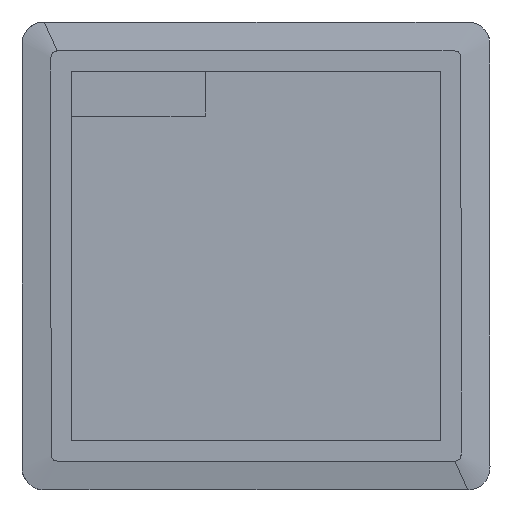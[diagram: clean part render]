
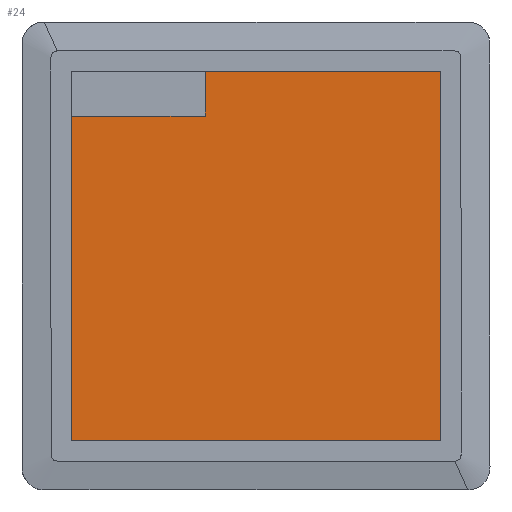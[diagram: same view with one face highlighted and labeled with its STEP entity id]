
A CAD part, front view. The second image highlights one B-rep face of the part: STEP entity #24.
In plain terms, the highlighted planar face has unit normal (0, -1, 0).
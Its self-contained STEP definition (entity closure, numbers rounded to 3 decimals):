
#24=ADVANCED_FACE('',(#70),#712,.T.);
#70=FACE_OUTER_BOUND('',#117,.T.);
#117=EDGE_LOOP('',(#187,#188,#189,#190,#191,#192));
#187=ORIENTED_EDGE('',*,*,#408,.F.);
#188=ORIENTED_EDGE('',*,*,#411,.F.);
#189=ORIENTED_EDGE('',*,*,#404,.T.);
#190=ORIENTED_EDGE('',*,*,#413,.F.);
#191=ORIENTED_EDGE('',*,*,#407,.T.);
#192=ORIENTED_EDGE('',*,*,#412,.F.);
#404=EDGE_CURVE('',#634,#635,#516,.T.);
#407=EDGE_CURVE('',#638,#639,#519,.T.);
#408=EDGE_CURVE('',#637,#640,#520,.T.);
#411=EDGE_CURVE('',#634,#637,#523,.T.);
#412=EDGE_CURVE('',#640,#639,#524,.T.);
#413=EDGE_CURVE('',#638,#635,#525,.T.);
#516=B_SPLINE_CURVE_WITH_KNOTS('',1,(#2455,#2456),.UNSPECIFIED.,.F.,.F.,
(2,2),(0.,82.8),.UNSPECIFIED.);
#519=B_SPLINE_CURVE_WITH_KNOTS('',1,(#2461,#2462),.UNSPECIFIED.,.F.,.F.,
(2,2),(-82.8,-30.),.UNSPECIFIED.);
#520=B_SPLINE_CURVE_WITH_KNOTS('',1,(#2463,#2464),.UNSPECIFIED.,.F.,.F.,
(2,2),(0.,30.),.UNSPECIFIED.);
#523=B_SPLINE_CURVE_WITH_KNOTS('',1,(#2469,#2470,#2471,#2472,#2473,#2474,
#2475,#2476,#2477,#2478,#2479,#2480,#2481,#2482,#2483,#2484,#2485,#2486),
 .UNSPECIFIED.,.F.,.F.,(2,1,1,1,1,1,1,1,1,1,1,1,1,1,1,1,1,2),(0.,0.482,
3.182,9.532,12.232,18.582,21.283,
27.633,30.333,36.683,39.383,45.733,
48.434,54.784,57.484,63.834,66.534,
72.8),.UNSPECIFIED.);
#524=B_SPLINE_CURVE_WITH_KNOTS('',1,(#2487,#2488,#2489,#2490),
 .UNSPECIFIED.,.F.,.F.,(2,1,1,2),(0.,3.502,6.203,10.),
 .UNSPECIFIED.);
#525=B_SPLINE_CURVE_WITH_KNOTS('',1,(#2491,#2492,#2493,#2494,#2495,#2496,
#2497,#2498,#2499,#2500,#2501,#2502,#2503,#2504,#2505,#2506,#2507,#2508,
#2509,#2510),.UNSPECIFIED.,.F.,.F.,(2,1,1,1,1,1,1,1,1,1,1,1,1,1,1,1,1,1,
1,2),(-82.8,-75.585,-72.884,-66.534,
-63.834,-57.484,-54.784,-48.434,-45.733,
-39.383,-36.683,-30.333,-27.633,
-21.283,-18.582,-12.232,-9.532,
-3.182,-0.482,0.),.UNSPECIFIED.);
#634=VERTEX_POINT('',#2342);
#635=VERTEX_POINT('',#2343);
#637=VERTEX_POINT('',#2345);
#638=VERTEX_POINT('',#2346);
#639=VERTEX_POINT('',#2347);
#640=VERTEX_POINT('',#2348);
#712=PLANE('',#840);
#840=AXIS2_PLACEMENT_3D('',#1140,#871,$);
#871=DIRECTION('',(0.,-1.,0.));
#1140=CARTESIAN_POINT('',(-41.4,-20.496,-41.4));
#2342=CARTESIAN_POINT('',(-41.4,-20.496,-41.4));
#2343=CARTESIAN_POINT('',(41.4,-20.496,-41.4));
#2345=CARTESIAN_POINT('',(-41.4,-20.496,31.4));
#2346=CARTESIAN_POINT('',(41.4,-20.496,41.4));
#2347=CARTESIAN_POINT('',(-11.4,-20.496,41.4));
#2348=CARTESIAN_POINT('',(-11.4,-20.496,31.4));
#2455=CARTESIAN_POINT('',(-41.4,-20.496,-41.4));
#2456=CARTESIAN_POINT('',(41.4,-20.496,-41.4));
#2461=CARTESIAN_POINT('',(41.4,-20.496,41.4));
#2462=CARTESIAN_POINT('',(-11.4,-20.496,41.4));
#2463=CARTESIAN_POINT('',(-41.4,-20.496,31.4));
#2464=CARTESIAN_POINT('',(-11.4,-20.496,31.4));
#2469=CARTESIAN_POINT('',(-41.4,-20.496,-41.4));
#2470=CARTESIAN_POINT('',(-41.4,-20.496,-40.918));
#2471=CARTESIAN_POINT('',(-41.4,-20.496,-38.218));
#2472=CARTESIAN_POINT('',(-41.4,-20.496,-31.868));
#2473=CARTESIAN_POINT('',(-41.4,-20.496,-29.168));
#2474=CARTESIAN_POINT('',(-41.4,-20.496,-22.818));
#2475=CARTESIAN_POINT('',(-41.4,-20.496,-20.117));
#2476=CARTESIAN_POINT('',(-41.4,-20.496,-13.767));
#2477=CARTESIAN_POINT('',(-41.4,-20.496,-11.067));
#2478=CARTESIAN_POINT('',(-41.4,-20.496,-4.717));
#2479=CARTESIAN_POINT('',(-41.4,-20.496,-2.017));
#2480=CARTESIAN_POINT('',(-41.4,-20.496,4.333));
#2481=CARTESIAN_POINT('',(-41.4,-20.496,7.034));
#2482=CARTESIAN_POINT('',(-41.4,-20.496,13.384));
#2483=CARTESIAN_POINT('',(-41.4,-20.496,16.084));
#2484=CARTESIAN_POINT('',(-41.4,-20.496,22.434));
#2485=CARTESIAN_POINT('',(-41.4,-20.496,25.134));
#2486=CARTESIAN_POINT('',(-41.4,-20.496,31.4));
#2487=CARTESIAN_POINT('',(-11.4,-20.496,31.4));
#2488=CARTESIAN_POINT('',(-11.4,-20.496,34.902));
#2489=CARTESIAN_POINT('',(-11.4,-20.496,37.603));
#2490=CARTESIAN_POINT('',(-11.4,-20.496,41.4));
#2491=CARTESIAN_POINT('',(41.4,-20.496,41.4));
#2492=CARTESIAN_POINT('',(41.4,-20.496,34.185));
#2493=CARTESIAN_POINT('',(41.4,-20.496,31.484));
#2494=CARTESIAN_POINT('',(41.4,-20.496,25.134));
#2495=CARTESIAN_POINT('',(41.4,-20.496,22.434));
#2496=CARTESIAN_POINT('',(41.4,-20.496,16.084));
#2497=CARTESIAN_POINT('',(41.4,-20.496,13.384));
#2498=CARTESIAN_POINT('',(41.4,-20.496,7.034));
#2499=CARTESIAN_POINT('',(41.4,-20.496,4.333));
#2500=CARTESIAN_POINT('',(41.4,-20.496,-2.017));
#2501=CARTESIAN_POINT('',(41.4,-20.496,-4.717));
#2502=CARTESIAN_POINT('',(41.4,-20.496,-11.067));
#2503=CARTESIAN_POINT('',(41.4,-20.496,-13.767));
#2504=CARTESIAN_POINT('',(41.4,-20.496,-20.117));
#2505=CARTESIAN_POINT('',(41.4,-20.496,-22.818));
#2506=CARTESIAN_POINT('',(41.4,-20.496,-29.168));
#2507=CARTESIAN_POINT('',(41.4,-20.496,-31.868));
#2508=CARTESIAN_POINT('',(41.4,-20.496,-38.218));
#2509=CARTESIAN_POINT('',(41.4,-20.496,-40.918));
#2510=CARTESIAN_POINT('',(41.4,-20.496,-41.4));
